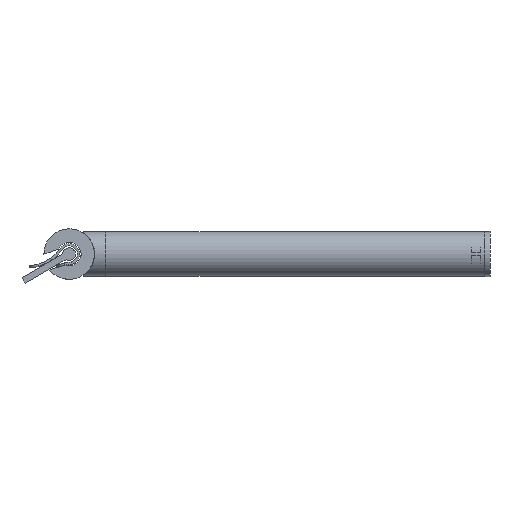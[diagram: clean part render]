
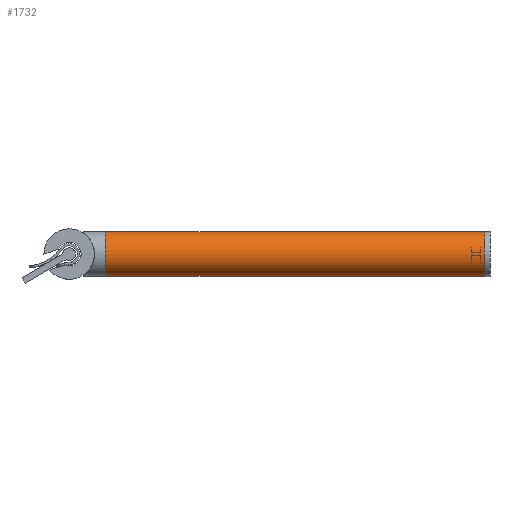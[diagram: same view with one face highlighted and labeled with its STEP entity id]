
A CAD part, left-side view. The second image highlights one B-rep face of the part: STEP entity #1732.
In plain terms, the highlighted cylindrical face has radius 8 mm (diameter 16 mm), a full revolution.
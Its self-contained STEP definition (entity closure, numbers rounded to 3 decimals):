
#146=CYLINDRICAL_SURFACE('',#1906,8.);
#225=FACE_OUTER_BOUND('',#323,.T.);
#323=EDGE_LOOP('',(#1451,#1452,#1453,#1454,#1455,#1456));
#451=LINE('',#3046,#562);
#562=VECTOR('',#2290,8.);
#645=CIRCLE('',#1903,8.);
#646=CIRCLE('',#1904,8.);
#648=CIRCLE('',#1907,8.);
#649=CIRCLE('',#1908,8.);
#783=VERTEX_POINT('',#3035);
#784=VERTEX_POINT('',#3036);
#786=VERTEX_POINT('',#3042);
#787=VERTEX_POINT('',#3043);
#1017=EDGE_CURVE('',#783,#784,#645,.T.);
#1018=EDGE_CURVE('',#784,#783,#646,.T.);
#1020=EDGE_CURVE('',#786,#787,#648,.T.);
#1021=EDGE_CURVE('',#787,#786,#649,.T.);
#1022=EDGE_CURVE('',#787,#784,#451,.T.);
#1451=ORIENTED_EDGE('',*,*,#1020,.F.);
#1452=ORIENTED_EDGE('',*,*,#1021,.F.);
#1453=ORIENTED_EDGE('',*,*,#1022,.T.);
#1454=ORIENTED_EDGE('',*,*,#1018,.T.);
#1455=ORIENTED_EDGE('',*,*,#1017,.T.);
#1456=ORIENTED_EDGE('',*,*,#1022,.F.);
#1732=ADVANCED_FACE('',(#225),#146,.T.);
#1903=AXIS2_PLACEMENT_3D('',#3037,#2278,#2279);
#1904=AXIS2_PLACEMENT_3D('',#3038,#2280,#2281);
#1906=AXIS2_PLACEMENT_3D('',#3041,#2284,#2285);
#1907=AXIS2_PLACEMENT_3D('',#3044,#2286,#2287);
#1908=AXIS2_PLACEMENT_3D('',#3045,#2288,#2289);
#2278=DIRECTION('center_axis',(0.,-1.,0.));
#2279=DIRECTION('ref_axis',(-1.,0.,0.));
#2280=DIRECTION('center_axis',(0.,-1.,0.));
#2281=DIRECTION('ref_axis',(-1.,0.,0.));
#2284=DIRECTION('center_axis',(0.,-1.,0.));
#2285=DIRECTION('ref_axis',(-1.,0.,0.));
#2286=DIRECTION('center_axis',(0.,-1.,0.));
#2287=DIRECTION('ref_axis',(-1.,0.,0.));
#2288=DIRECTION('center_axis',(0.,-1.,0.));
#2289=DIRECTION('ref_axis',(-1.,0.,0.));
#2290=DIRECTION('',(0.,1.,0.));
#3035=CARTESIAN_POINT('',(-8.,1.5,14.6));
#3036=CARTESIAN_POINT('',(8.,1.5,14.6));
#3037=CARTESIAN_POINT('Origin',(0.,1.5,14.6));
#3038=CARTESIAN_POINT('Origin',(0.,1.5,14.6));
#3041=CARTESIAN_POINT('Origin',(0.,1.5,14.6));
#3042=CARTESIAN_POINT('',(-8.,-133.5,14.6));
#3043=CARTESIAN_POINT('',(8.,-133.5,14.6));
#3044=CARTESIAN_POINT('Origin',(0.,-133.5,14.6));
#3045=CARTESIAN_POINT('Origin',(0.,-133.5,14.6));
#3046=CARTESIAN_POINT('',(8.,1.5,14.6));
